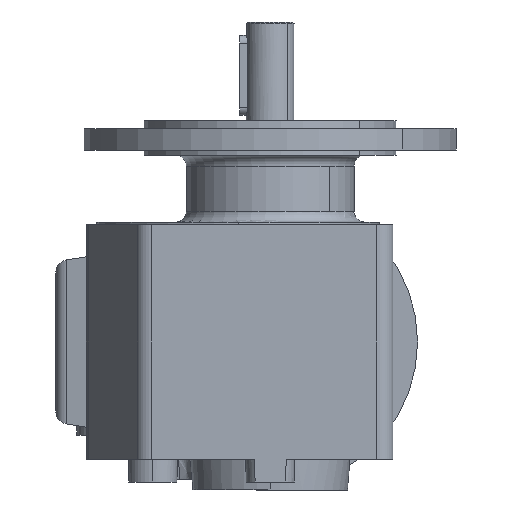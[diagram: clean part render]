
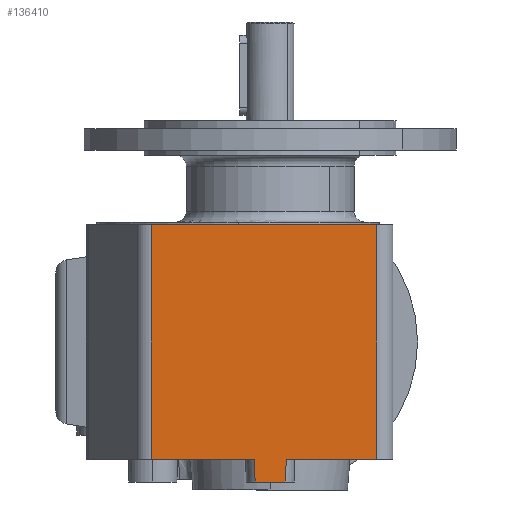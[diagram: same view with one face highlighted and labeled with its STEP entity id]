
A CAD part, left-side view. The second image highlights one B-rep face of the part: STEP entity #136410.
In plain terms, the highlighted planar face has unit normal (-1, 0, 0).
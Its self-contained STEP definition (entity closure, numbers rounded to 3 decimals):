
#119330=CARTESIAN_POINT('',(-296.458,-246.495,
1.017));
#119340=VERTEX_POINT('',#119330);
#119370=CARTESIAN_POINT('',(-296.458,-392.395,
1.017));
#119380=DIRECTION('',(0.,-1.,0.));
#119390=VECTOR('',#119380,1.);
#119400=LINE('',#119370,#119390);
#119410=CARTESIAN_POINT('',(-296.458,-331.031,
1.017));
#119420=VERTEX_POINT('',#119410);
#119430=EDGE_CURVE('',#119340,#119420,#119400,.T.);
#133900=CARTESIAN_POINT('',(-296.458,-246.495,
89.017));
#133910=VERTEX_POINT('',#133900);
#133940=CARTESIAN_POINT('',(-296.458,-246.495,
5.79));
#133950=DIRECTION('',(0.,0.,-1.));
#133960=VECTOR('',#133950,1.);
#133970=LINE('',#133940,#133960);
#133980=EDGE_CURVE('',#133910,#119340,#133970,.T.);
#135580=CARTESIAN_POINT('',(-296.458,-331.031,
5.79));
#135590=DIRECTION('',(0.,0.,-1.));
#135600=VECTOR('',#135590,1.);
#135610=LINE('',#135580,#135600);
#135620=CARTESIAN_POINT('',(-296.458,-331.031,
89.017));
#135630=VERTEX_POINT('',#135620);
#135640=EDGE_CURVE('',#135630,#119420,#135610,.T.);
#135770=CARTESIAN_POINT('',(-296.458,-392.395,
5.79));
#135780=DIRECTION('',(-1.,0.,0.));
#135790=DIRECTION('',(0.,0.,1.));
#135800=AXIS2_PLACEMENT_3D('',#135770,#135780,#135790);
#135810=PLANE('',#135800);
#135820=CARTESIAN_POINT('',(-296.458,-392.395,
89.017));
#135830=DIRECTION('',(0.,1.,0.));
#135840=VECTOR('',#135830,1.);
#135850=LINE('',#135820,#135840);
#135860=CARTESIAN_POINT('',(-296.458,-280.471,
89.017));
#135870=VERTEX_POINT('',#135860);
#135880=EDGE_CURVE('',#135870,#133910,#135850,.T.);
#135890=ORIENTED_EDGE('',*,*,#135880,.T.);
#135900=CARTESIAN_POINT('',(-296.458,-280.471,
89.017));
#135910=CARTESIAN_POINT('',(-296.458,-280.501,
89.726));
#135920=CARTESIAN_POINT('',(-296.458,-280.531,
90.434));
#135930=CARTESIAN_POINT('',(-296.458,-280.562,
91.143));
#135940=CARTESIAN_POINT('',(-296.458,-280.592,
91.851));
#135950=CARTESIAN_POINT('',(-296.458,-280.622,
92.559));
#135960=CARTESIAN_POINT('',(-296.458,-280.653,
93.268));
#135970=CARTESIAN_POINT('',(-296.458,-280.683,
93.976));
#135980=CARTESIAN_POINT('',(-296.458,-280.714,
94.684));
#135990=CARTESIAN_POINT('',(-296.458,-280.745,
95.393));
#136000=CARTESIAN_POINT('',(-296.458,-280.776,
96.101));
#136010=CARTESIAN_POINT('',(-296.458,-280.807,
96.809));
#136020=CARTESIAN_POINT('',(-296.458,-280.838,
97.517));
#136030=B_SPLINE_CURVE_WITH_KNOTS('',3,(#135900,#135910,#135920,#135930,
#135940,#135950,#135960,#135970,#135980,#135990,#136000,#136010,#136020)
,.UNSPECIFIED.,.F.,.F.,(4,3,3,3,4),(0.,2.127,4.254
,6.381,8.508),.UNSPECIFIED.);
#136040=CARTESIAN_POINT('',(-296.458,-280.838,
97.517));
#136050=VERTEX_POINT('',#136040);
#136060=EDGE_CURVE('',#135870,#136050,#136030,.T.);
#136070=ORIENTED_EDGE('',*,*,#136060,.F.);
#136080=CARTESIAN_POINT('',(-296.458,-392.395,
97.517));
#136090=DIRECTION('',(0.,1.,0.));
#136100=VECTOR('',#136090,1.);
#136110=LINE('',#136080,#136100);
#136120=CARTESIAN_POINT('',(-296.458,-292.152,
97.517));
#136130=VERTEX_POINT('',#136120);
#136140=EDGE_CURVE('',#136130,#136050,#136110,.T.);
#136150=ORIENTED_EDGE('',*,*,#136140,.T.);
#136160=CARTESIAN_POINT('',(-296.458,-292.152,
97.517));
#136170=CARTESIAN_POINT('',(-296.458,-292.183,
96.809));
#136180=CARTESIAN_POINT('',(-296.458,-292.214,
96.101));
#136190=CARTESIAN_POINT('',(-296.458,-292.245,
95.393));
#136200=CARTESIAN_POINT('',(-296.458,-292.276,
94.684));
#136210=CARTESIAN_POINT('',(-296.458,-292.306,
93.976));
#136220=CARTESIAN_POINT('',(-296.458,-292.337,
93.268));
#136230=CARTESIAN_POINT('',(-296.458,-292.368,
92.559));
#136240=CARTESIAN_POINT('',(-296.458,-292.398,
91.851));
#136250=CARTESIAN_POINT('',(-296.458,-292.428,
91.143));
#136260=CARTESIAN_POINT('',(-296.458,-292.459,
90.434));
#136270=CARTESIAN_POINT('',(-296.458,-292.489,
89.726));
#136280=CARTESIAN_POINT('',(-296.458,-292.519,
89.017));
#136290=B_SPLINE_CURVE_WITH_KNOTS('',3,(#136160,#136170,#136180,#136190,
#136200,#136210,#136220,#136230,#136240,#136250,#136260,#136270,#136280)
,.UNSPECIFIED.,.F.,.F.,(4,3,3,3,4),(0.,2.127,4.254
,6.381,8.508),.UNSPECIFIED.);
#136300=CARTESIAN_POINT('',(-296.458,-292.519,
89.017));
#136310=VERTEX_POINT('',#136300);
#136320=EDGE_CURVE('',#136130,#136310,#136290,.T.);
#136330=ORIENTED_EDGE('',*,*,#136320,.F.);
#136340=EDGE_CURVE('',#135630,#136310,#135850,.T.);
#136350=ORIENTED_EDGE('',*,*,#136340,.T.);
#136360=ORIENTED_EDGE('',*,*,#135640,.F.);
#136370=ORIENTED_EDGE('',*,*,#119430,.T.);
#136380=ORIENTED_EDGE('',*,*,#133980,.T.);
#136390=EDGE_LOOP('',(#136380,#136370,#136360,#136350,#136330,#136150,
#136070,#135890));
#136400=FACE_OUTER_BOUND('',#136390,.T.);
#136410=ADVANCED_FACE('',(#136400),#135810,.T.);
